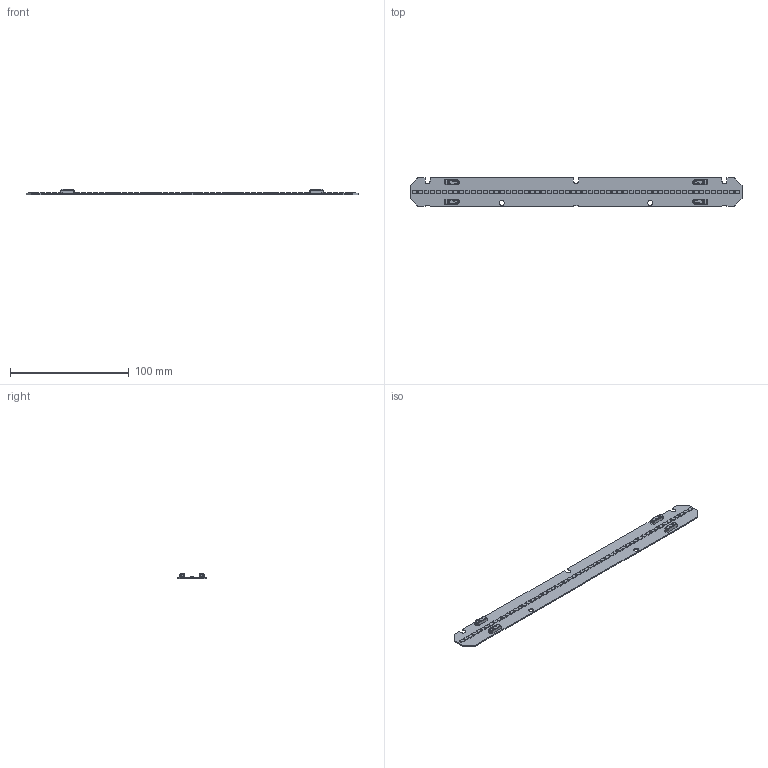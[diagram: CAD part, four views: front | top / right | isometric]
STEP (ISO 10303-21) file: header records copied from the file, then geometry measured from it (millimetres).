
FILE_DESCRIPTION(/* description */ ('Unknown'),/* implementation_level */ '2;1');
FILE_NAME(/* name */ 'LinLED 280x24mm 2000lm 4C 42V sh-000 2023-05-18',/* time_stamp */ '2023-05-18T11:14:23+02:00',/* author */ ('Unknown'),/* organization */ ('Unknown'),/* preprocessor_version */ 'ST-DEVELOPER v18.102',/* originating_system */ 'Solid Edge',/* authorisation */ 'Unknown');
FILE_SCHEMA (('AUTOMOTIVE_DESIGN {1 0 10303 214 3 1 1}'));
Products named in the file (1): LinLED 280x24mm 2000lm 4C 42V sh-000 2023-05-18
Bounding box: 279.6 x 24 x 4.45 mm (x, y, z)
Volume: 7353.2 mm3; surface area: 15013 mm2
Topology: 1 solids, 1 shells, 1880 faces, 4888 edges, 3122 vertices
Faces by surface type: plane 1293, cylinder 275, torus 128, cone 100, bspline 52, sphere 32
Full cylindrical faces by diameter (mm): 4.3 x2
Entity records: 71856 total; most frequent: CARTESIAN_POINT 14337, ORIENTED_EDGE 9672, DIRECTION 8172, EDGE_CURVE 4836, LINE 3590, VECTOR 3590, VERTEX_POINT 3108, AXIS2_PLACEMENT_3D 2291
